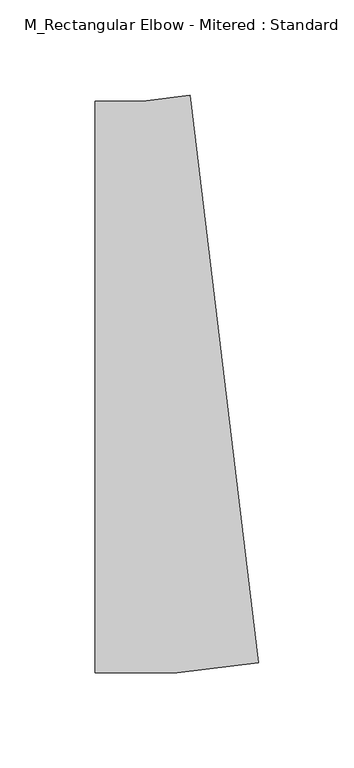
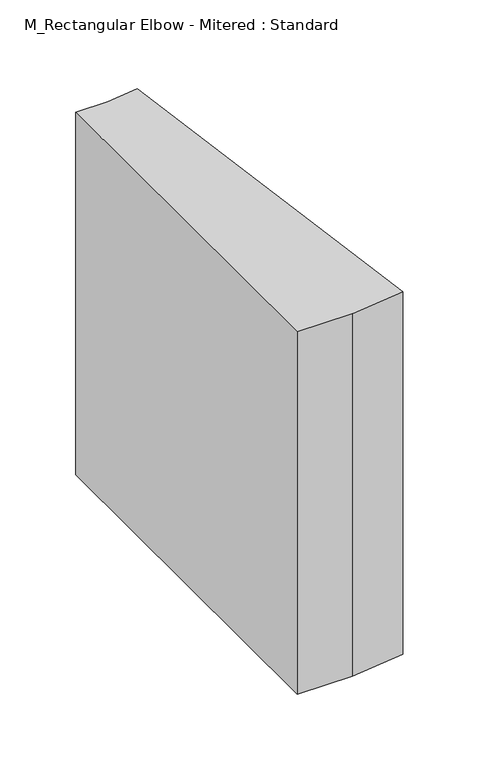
"""IFC4 building model written with IfcOpenShell, lengths in millimetres: duct fitting geometry, M_Rectangular Elbow - Mitered : Standard."""

from ifc_helpers import new_model, si_unit, frame, origin, place, context, project, spatial, polyline, outline, extrude, source, transform, mapped, element, save


def m_rectangular_elbow_mitered_standard_b50bd6a8(model_context):
    return source(origin(), model_context, "Body", "SweptSolid", [
        extrude(outline(polyline([(-34.0578675, -150.0), (-34.0578675, 150.0), (-9.0578675, 150.0), (15.7604728, 153.0083195), (51.8603068, -144.8117637), (9.0578675, -150.0), (-34.0578675, -150.0)])), frame((0.0, 0.0, -150.0), z_axis=(0.0, 0.0, 1.0), x_axis=(1.0, 0.0, 0.0)), (0.0, 0.0, 1.0), 300.0),
        extrude(outline(polyline([(-34.0578675, -150.0), (-34.0578675, 150.0), (-9.0578675, 150.0), (15.7604728, 153.0083195), (51.8603068, -144.8117637), (9.0578675, -150.0), (-34.0578675, -150.0)])), frame((0.0, 0.0, -150.0), z_axis=(0.0, 0.0, 1.0), x_axis=(1.0, 0.0, 0.0)), (0.0, 0.0, 1.0), 300.0),
        extrude(outline(polyline([(-34.0578675, -150.0), (-34.0578675, 150.0), (-9.0578675, 150.0), (15.7604728, 153.0083195), (51.8603068, -144.8117637), (9.0578675, -150.0), (-34.0578675, -150.0)])), frame((0.0, 0.0, -150.0), z_axis=(0.0, 0.0, 1.0), x_axis=(1.0, 0.0, 0.0)), (0.0, 0.0, 1.0), 300.0),
    ])


if __name__ == "__main__":
    model = new_model("IFC4")
    model_context = context("Model", 3, world=origin())
    ifc_project = project(units=[si_unit("LENGTHUNIT", "METRE", prefix="MILLI")], contexts=[model_context])
    site = spatial("IfcSite", under=ifc_project)
    building = spatial("IfcBuilding", under=site)
    placement = place(None, origin())
    m_rectangular_elbow_mitered_standard_shape = m_rectangular_elbow_mitered_standard_b50bd6a8(model_context)
    element("IfcDuctFitting", 1, ObjectType="M_Rectangular Elbow - Mitered : Standard", at=placement, inside=building, context=model_context, shape_type="MappedRepresentation", body=[
        mapped(m_rectangular_elbow_mitered_standard_shape, transform((0.0, 0.0, 0.0), x_axis=(1.0, 0.0, 0.0), y_axis=(0.0, 1.0, 0.0), z_axis=(0.0, 0.0, 1.0))),
    ])
    save(model, "model.ifc")
